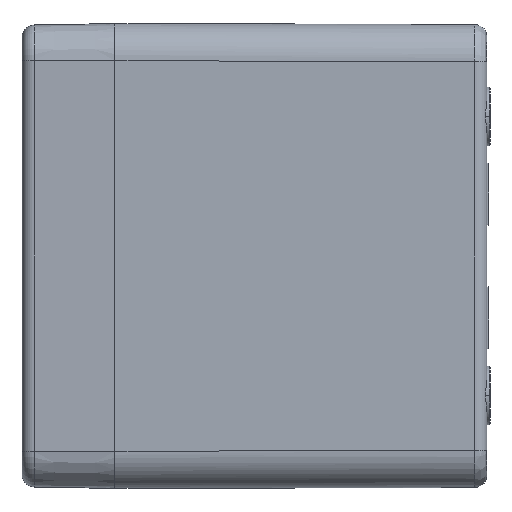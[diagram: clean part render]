
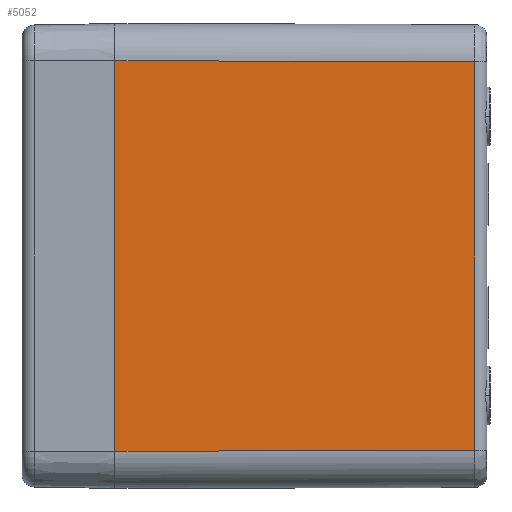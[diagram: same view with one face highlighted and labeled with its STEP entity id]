
A CAD part, left-side view. The second image highlights one B-rep face of the part: STEP entity #5052.
In plain terms, the highlighted planar face has unit normal (-1, -0.003, 0).
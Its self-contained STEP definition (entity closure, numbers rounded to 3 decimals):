
#658=CARTESIAN_POINT('',(-55.,0.,-31.5));
#710=CARTESIAN_POINT('',(-55.,0.,31.5));
#723=DIRECTION('',(0.,0.,-1.));
#724=VECTOR('',#723,63.);
#725=CARTESIAN_POINT('',(-55.,0.,31.5));
#726=LINE('',#725,#724);
#1724=DIRECTION('',(0.,0.,1.));
#1725=VECTOR('',#1724,62.71);
#1726=CARTESIAN_POINT('',(-54.855,-58.005,
-31.355));
#1727=LINE('',#1726,#1725);
#1773=DIRECTION('',(-0.003,1.,-0.002));
#1774=VECTOR('',#1773,58.005);
#1775=CARTESIAN_POINT('',(-54.855,-58.005,
-31.355));
#1776=LINE('',#1775,#1774);
#1780=DIRECTION('',(-0.003,1.,0.002));
#1781=VECTOR('',#1780,58.005);
#1782=CARTESIAN_POINT('',(-54.855,-58.005,
31.355));
#1783=LINE('',#1782,#1781);
#1787=CARTESIAN_POINT('',(-54.855,-58.005,
-31.355));
#1898=CARTESIAN_POINT('',(-54.855,-58.005,
31.355));
#3464=VERTEX_POINT('',#658);
#3469=VERTEX_POINT('',#710);
#3473=VERTEX_POINT('',#1787);
#3490=VERTEX_POINT('',#1898);
#5039=CARTESIAN_POINT('',(-54.925,-30.,0.));
#5040=DIRECTION('',(1.,0.002,0.));
#5041=DIRECTION('',(-0.002,1.,0.));
#5042=AXIS2_PLACEMENT_3D('',#5039,#5040,#5041);
#5043=PLANE('',#5042);
#5044=ORIENTED_EDGE('',*,*,#4999,.F.);
#5046=ORIENTED_EDGE('',*,*,#5045,.T.);
#5047=ORIENTED_EDGE('',*,*,#3922,.F.);
#5049=ORIENTED_EDGE('',*,*,#5048,.F.);
#5050=EDGE_LOOP('',(#5044,#5046,#5047,#5049));
#5051=FACE_OUTER_BOUND('',#5050,.F.);
#3922=EDGE_CURVE('',#3469,#3464,#726,.T.);
#4999=EDGE_CURVE('',#3473,#3490,#1727,.T.);
#5045=EDGE_CURVE('',#3473,#3464,#1776,.T.);
#5048=EDGE_CURVE('',#3490,#3469,#1783,.T.);
#5052=ADVANCED_FACE('',(#5051),#5043,.F.);
